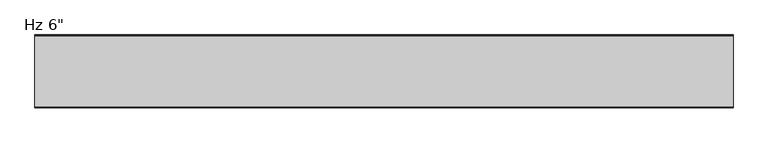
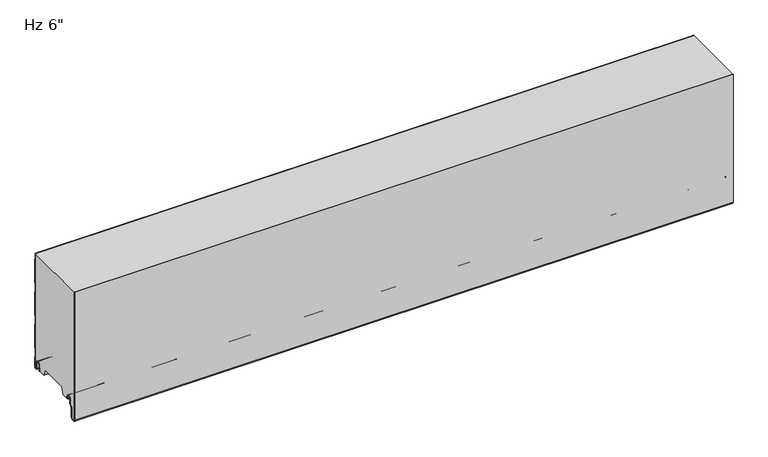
"""IFC4 building model written with IfcOpenShell, lengths in millimetres: plate geometry."""

from ifc_helpers import new_model, si_unit, point, frame, frame_2d, origin, place, context, project, spatial, polyline, circle_curve, trimmed, segment, composite_curve, outline, extrude, source, transform, mapped, element, save


def plate_4c4554a8(model_context):
    return source(origin(), model_context, "Body", "SweptSolid", [
        extrude(outline(composite_curve([segment(trimmed(circle_curve(frame_2d((-2.3985037, -0.4487243)), 2.3999705), [point((-3.12e-05, -0.3639402))], [point((-2.3985037, -2.8486949))], False, "CARTESIAN"), True, "CONTINUOUS"), segment(polyline([(-2.3985037, -2.8486949), (-3.9516205, -2.8486949)]), True, "CONTINUOUS"), segment(trimmed(circle_curve(frame_2d((-3.9516205, 0.3613604)), 3.2100553), [point((-3.9516205, -2.8486949))], [point((-7.1616758, 0.3613604))], False, "CARTESIAN"), True, "CONTINUOUS"), segment(polyline([(-7.1616758, 0.3613604), (-7.1616758, 13.8905885)]), True, "CONTINUOUS"), segment(trimmed(circle_curve(frame_2d((-9.8816619, 13.8905885)), 2.7199861), [point((-7.1616758, 13.8905885))], [point((-9.8816619, 16.6105746))], True, "CARTESIAN"), True, "CONTINUOUS"), segment(polyline([(-9.8816619, 16.6105746), (-13.5282598, 16.6105746)]), True, "CONTINUOUS"), segment(trimmed(circle_curve(frame_2d((-13.5282598, 13.8905782)), 2.7199964), [point((-13.5282598, 16.6105746))], [point((-16.2482561, 13.8905782))], True, "CARTESIAN"), True, "CONTINUOUS"), segment(polyline([(-16.2482561, 13.8905782), (-16.2482561, 1.189897)]), True, "CONTINUOUS"), segment(trimmed(circle_curve(frame_2d((-17.7722572, 1.189897)), 1.524001), [point((-16.2482561, 1.189897))], [point((-19.2731052, 1.454537))], False, "CARTESIAN"), True, "CONTINUOUS"), segment(polyline([(-19.2731052, 1.454537), (-18.1704393, 7.7080661), (-17.2482561, 7.5454603), (-17.2482561, 13.8905782)]), True, "CONTINUOUS"), segment(trimmed(circle_curve(frame_2d((-13.5282598, 13.8905782)), 3.7199964), [point((-17.2482561, 13.8905782))], [point((-13.5282598, 17.6105746))], False, "CARTESIAN"), True, "CONTINUOUS"), segment(polyline([(-13.5282598, 17.6105746), (-9.8816619, 17.6105746)]), True, "CONTINUOUS"), segment(trimmed(circle_curve(frame_2d((-9.8816619, 13.8905885)), 3.7199861), [point((-9.8816619, 17.6105746))], [point((-6.1616758, 13.8905885))], False, "CARTESIAN"), True, "CONTINUOUS"), segment(polyline([(-6.1616758, 13.8905885), (-6.1616758, 0.3613604)]), True, "CONTINUOUS"), segment(trimmed(circle_curve(frame_2d((-3.9516205, 0.3613604)), 2.2100553), [point((-6.1616758, 0.3613604))], [point((-3.9516205, -1.8486949))], True, "CARTESIAN"), True, "CONTINUOUS"), segment(polyline([(-3.9516205, -1.8486949), (-2.3985037, -1.8486949)]), True, "CONTINUOUS"), segment(trimmed(circle_curve(frame_2d((-2.3985037, -0.4487243)), 1.3999705), [point((-2.3985037, -1.8486949))], [point((-1.0000312, -0.3839769))], True, "CARTESIAN"), True, "CONTINUOUS"), segment(polyline([(-1.0000312, -0.3839769), (-1.0000312, 22.2866086), (-2.2002516, 23.486829), (-2.2002516, 43.1222888), (-1.0000209, 44.3225195), (-1.0000209, 98.4864459), (-2.2002516, 99.6866766), (-2.2002516, 119.3221364), (-1.0000209, 120.5223671), (-1.0000209, 174.6698551), (-2.2002516, 175.8700858), (-2.2002516, 195.5055456), (-1.0000209, 196.7057763), (-1.0000209, 250.8532643), (-2.2002516, 252.0534951), (-2.2002516, 266.4), (-1.2002516, 266.4), (-1.2002516, 252.4677086), (-2.09e-05, 251.2674779), (-2.09e-05, 196.2915628), (-1.2002516, 195.091332), (-1.2002516, 176.2842994), (-2.09e-05, 175.0840687), (-2.09e-05, 120.1081535), (-1.2002516, 118.9079228), (-1.2002516, 100.1008902), (-2.09e-05, 98.9006594), (-2.09e-05, 43.9083059), (-1.2002516, 42.7080752), (-1.2002516, 23.9010426), (-3.12e-05, 22.7008222), (-3.12e-05, -0.3639402)]), True, "CONTINUOUS")], self_intersect=False)), frame((-730.0, 0.0, 0.0), z_axis=(1.0, 0.0, 0.0), x_axis=(0.0, 1.0, 0.0)), (0.0, 0.0, 1.0), 1460.0),
        extrude(outline(composite_curve([segment(trimmed(circle_curve(frame_2d((-124.1060531, 0.8654988)), 1.2), [point((-122.9060541, 0.8670134))], [point((-125.3045377, 0.8052116))], False, "CARTESIAN"), True, "CONTINUOUS"), segment(polyline([(-125.3045377, 0.8052116), (-125.3045377, 7.3245305)]), True, "CONTINUOUS"), segment(trimmed(circle_curve(frame_2d((-127.6545376, 7.3245305)), 2.3499999), [point((-125.3045377, 7.3245305))], [point((-127.6545376, 9.6745305))], True, "CARTESIAN"), True, "CONTINUOUS"), segment(polyline([(-127.6545376, 9.6745305), (-132.0545375, 9.6745305)]), True, "CONTINUOUS"), segment(trimmed(circle_curve(frame_2d((-132.0545375, 7.3245305)), 2.3499999), [point((-132.0545375, 9.6745305))], [point((-134.4045374, 7.3245305))], True, "CARTESIAN"), True, "CONTINUOUS"), segment(polyline([(-134.4045374, 7.3245305), (-134.4045374, -4.4863817)]), True, "CONTINUOUS"), segment(trimmed(circle_curve(frame_2d((-137.1045374, -4.4863817)), 2.7), [point((-134.4045374, -4.4863817))], [point((-135.1953491, -6.39557))], False, "CARTESIAN"), True, "CONTINUOUS"), segment(polyline([(-135.1953491, -6.39557), (-139.935908, -11.1361289)]), True, "CONTINUOUS"), segment(trimmed(circle_curve(frame_2d((-138.8045372, -12.2674998)), 1.6), [point((-139.935908, -11.1361289))], [point((-140.4045372, -12.2674998))], True, "CARTESIAN"), True, "CONTINUOUS"), segment(polyline([(-140.4045372, -12.2674998), (-140.4045372, -33.274257)]), True, "CONTINUOUS"), segment(trimmed(circle_curve(frame_2d((-144.1045372, -33.274257)), 3.7), [point((-140.4045372, -33.274257))], [point((-143.78177, -36.960152))], False, "CARTESIAN"), True, "CONTINUOUS"), segment(polyline([(-143.78177, -36.960152), (-148.5287586, -37.3758371)]), True, "CONTINUOUS"), segment(trimmed(circle_curve(frame_2d((-148.8393697, -33.8287598)), 3.5606512), [point((-148.5287586, -37.3758371))], [point((-152.4000209, -33.8287598))], False, "CARTESIAN"), True, "CONTINUOUS"), segment(polyline([(-152.4000209, -33.8287598), (-152.4000209, 266.4), (-151.4000209, 266.4), (-151.4000209, -33.8287598)]), True, "CONTINUOUS"), segment(trimmed(circle_curve(frame_2d((-148.8393697, -33.8287598)), 2.5606512), [point((-151.4000209, -33.8287598))], [point((-148.6159929, -36.3796493))], True, "CARTESIAN"), True, "CONTINUOUS"), segment(polyline([(-148.6159929, -36.3796493), (-143.8690044, -35.9639641)]), True, "CONTINUOUS"), segment(trimmed(circle_curve(frame_2d((-144.1045372, -33.274257)), 2.7), [point((-143.8690044, -35.9639641))], [point((-141.4045372, -33.274257))], True, "CARTESIAN"), True, "CONTINUOUS"), segment(polyline([(-141.4045372, -33.274257), (-141.4045372, -12.2674998)]), True, "CONTINUOUS"), segment(trimmed(circle_curve(frame_2d((-138.8045372, -12.2674998)), 2.6), [point((-141.4045372, -12.2674998))], [point((-140.6430148, -10.4290221))], False, "CARTESIAN"), True, "CONTINUOUS"), segment(polyline([(-140.6430148, -10.4290221), (-135.9024559, -5.6884632)]), True, "CONTINUOUS"), segment(trimmed(circle_curve(frame_2d((-137.1045374, -4.4863817)), 1.7), [point((-135.9024559, -5.6884632))], [point((-135.4045374, -4.4863817))], True, "CARTESIAN"), True, "CONTINUOUS"), segment(polyline([(-135.4045374, -4.4863817), (-135.4045374, 7.3245305)]), True, "CONTINUOUS"), segment(trimmed(circle_curve(frame_2d((-132.0545375, 7.3245305)), 3.3499999), [point((-135.4045374, 7.3245305))], [point((-132.0545375, 10.6745305))], False, "CARTESIAN"), True, "CONTINUOUS"), segment(polyline([(-132.0545375, 10.6745305), (-127.6545376, 10.6745305)]), True, "CONTINUOUS"), segment(trimmed(circle_curve(frame_2d((-127.6545376, 7.3245305)), 3.3499999), [point((-127.6545376, 10.6745305))], [point((-124.3045377, 7.3245305))], False, "CARTESIAN"), True, "CONTINUOUS"), segment(polyline([(-124.3045377, 7.3245305), (-124.3045377, 4.6254142), (-122.9060541, 4.6254142), (-122.9060541, 0.8670134)]), True, "CONTINUOUS")], self_intersect=False)), frame((-730.0, 0.0, 0.0), z_axis=(1.0, 0.0, 0.0), x_axis=(0.0, 1.0, 0.0)), (0.0, 0.0, 1.0), 1460.0),
        extrude(outline(composite_curve([segment(trimmed(circle_curve(frame_2d((-127.6545376, 7.3245305)), 3.3499999), [point((-124.3045377, 7.3245305))], [point((-127.6545376, 10.6745305))], True, "CARTESIAN"), True, "CONTINUOUS"), segment(polyline([(-127.6545376, 10.6745305), (-132.0545375, 10.6745305)]), True, "CONTINUOUS"), segment(trimmed(circle_curve(frame_2d((-132.0545375, 7.3245305)), 3.3499999), [point((-132.0545375, 10.6745305))], [point((-135.4045374, 7.3245305))], True, "CARTESIAN"), True, "CONTINUOUS"), segment(polyline([(-135.4045374, 7.3245305), (-135.4045374, -4.4863817)]), True, "CONTINUOUS"), segment(trimmed(circle_curve(frame_2d((-137.1045374, -4.4863817)), 1.7), [point((-135.4045374, -4.4863817))], [point((-135.9024559, -5.6884632))], False, "CARTESIAN"), True, "CONTINUOUS"), segment(polyline([(-135.9024559, -5.6884632), (-140.6430148, -10.4290221)]), True, "CONTINUOUS"), segment(trimmed(circle_curve(frame_2d((-138.8045372, -12.2674998)), 2.6), [point((-140.6430148, -10.4290221))], [point((-141.4045372, -12.2674998))], True, "CARTESIAN"), True, "CONTINUOUS"), segment(polyline([(-141.4045372, -12.2674998), (-141.4045372, -33.274257)]), True, "CONTINUOUS"), segment(trimmed(circle_curve(frame_2d((-144.1045372, -33.274257)), 2.7), [point((-141.4045372, -33.274257))], [point((-143.8690044, -35.9639641))], False, "CARTESIAN"), True, "CONTINUOUS"), segment(polyline([(-143.8690044, -35.9639641), (-148.6159929, -36.3796493)]), True, "CONTINUOUS"), segment(trimmed(circle_curve(frame_2d((-148.8393697, -33.8287598)), 2.5606512), [point((-148.6159929, -36.3796493))], [point((-151.4000209, -33.8287598))], False, "CARTESIAN"), True, "CONTINUOUS"), segment(polyline([(-151.4000209, -33.8287598), (-151.4000209, 266.4), (-2.2002516, 266.4), (-2.2002516, 252.0534951), (-1.0000209, 250.8532643), (-1.0000209, 196.7057763), (-2.2002516, 195.5055456), (-2.2002516, 175.8700858), (-1.0000209, 174.6698551), (-1.0000209, 120.5223671), (-2.2002516, 119.3221364), (-2.2002516, 99.6866766), (-1.0000209, 98.4864459), (-1.0000209, 44.3225195), (-2.2002516, 43.1222888), (-2.2002516, 23.486829), (-1.0000312, 22.2866086), (-1.0000312, -0.3839769)]), True, "CONTINUOUS"), segment(trimmed(circle_curve(frame_2d((-2.3985037, -0.4487243)), 1.3999705), [point((-1.0000312, -0.3839769))], [point((-2.3985037, -1.8486949))], False, "CARTESIAN"), True, "CONTINUOUS"), segment(polyline([(-2.3985037, -1.8486949), (-3.9516205, -1.8486949)]), True, "CONTINUOUS"), segment(trimmed(circle_curve(frame_2d((-3.9516205, 0.3613604)), 2.2100553), [point((-3.9516205, -1.8486949))], [point((-6.1616758, 0.3613604))], False, "CARTESIAN"), True, "CONTINUOUS"), segment(polyline([(-6.1616758, 0.3613604), (-6.1616758, 13.8905885)]), True, "CONTINUOUS"), segment(trimmed(circle_curve(frame_2d((-9.8816619, 13.8905885)), 3.7199861), [point((-6.1616758, 13.8905885))], [point((-9.8816619, 17.6105746))], True, "CARTESIAN"), True, "CONTINUOUS"), segment(polyline([(-9.8816619, 17.6105746), (-13.5282598, 17.6105746)]), True, "CONTINUOUS"), segment(trimmed(circle_curve(frame_2d((-13.5282598, 13.8905782)), 3.7199964), [point((-13.5282598, 17.6105746))], [point((-17.2482561, 13.8905782))], True, "CARTESIAN"), True, "CONTINUOUS"), segment(polyline([(-17.2482561, 13.8905782), (-17.2482561, 7.5454603), (-18.1704393, 7.7080661), (-19.2731052, 1.454537)]), True, "CONTINUOUS"), segment(trimmed(circle_curve(frame_2d((-17.7722572, 1.189897)), 1.524001), [point((-19.2731052, 1.454537))], [point((-18.724478, 0.0))], True, "CARTESIAN"), True, "CONTINUOUS"), segment(polyline([(-18.724478, 0.0), (-33.5050787, 0.0), (-39.1301227, 14.9979533), (-102.5686274, 14.9979533), (-108.1928551, 0.0), (-123.2748421, 0.0)]), True, "CONTINUOUS"), segment(trimmed(circle_curve(frame_2d((-124.1060531, 0.8654988)), 1.2), [point((-123.2748421, 0.0))], [point((-122.9060541, 0.8670134))], True, "CARTESIAN"), True, "CONTINUOUS"), segment(polyline([(-122.9060541, 0.8670134), (-122.9060541, 4.6254142), (-124.3045377, 4.6254142), (-124.3045377, 7.3245305)]), True, "CONTINUOUS")], self_intersect=False)), frame((-730.0, 0.0, 0.0), z_axis=(1.0, 0.0, 0.0), x_axis=(0.0, 1.0, 0.0)), (0.0, 0.0, 1.0), 1460.0),
    ])


if __name__ == "__main__":
    model = new_model("IFC4")
    model_context = context("Model", 3, world=origin())
    ifc_project = project(units=[si_unit("LENGTHUNIT", "METRE", prefix="MILLI")], contexts=[model_context])
    site = spatial("IfcSite", under=ifc_project)
    building = spatial("IfcBuilding", under=site)
    placement = place(None, origin())
    plate_shape = plate_4c4554a8(model_context)
    element("IfcPlate", 1, ObjectType="KIP-42-KRHF-R19-CP-Hz-FL_SL : Hz 6\"", at=placement, inside=building, context=model_context, shape_type="MappedRepresentation", body=[
        mapped(plate_shape, transform((0.0, 0.0, 0.0), x_axis=(1.0, 0.0, 0.0), y_axis=(0.0, 1.0, 0.0), z_axis=(0.0, 0.0, 1.0))),
    ])
    save(model, "model.ifc")
